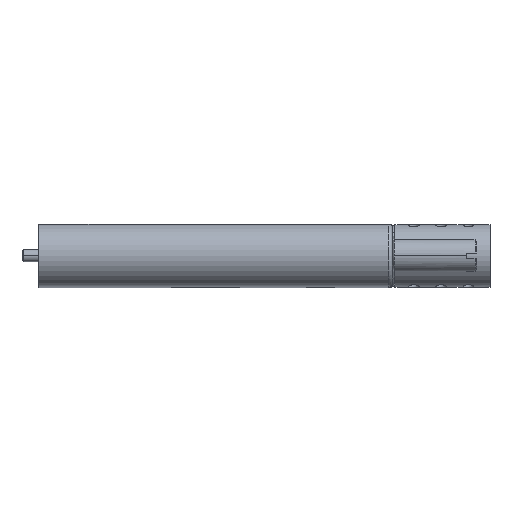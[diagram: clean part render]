
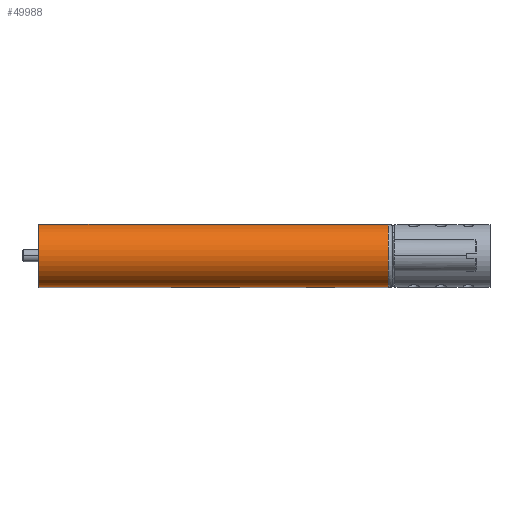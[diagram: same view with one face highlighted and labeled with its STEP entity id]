
A CAD part, top view. The second image highlights one B-rep face of the part: STEP entity #49988.
In plain terms, the highlighted cylindrical face has radius 6.096 mm (diameter 12.192 mm), a partial arc.
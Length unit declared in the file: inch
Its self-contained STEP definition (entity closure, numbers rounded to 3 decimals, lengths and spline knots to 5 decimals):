
#1848=DIRECTION('',(-1.,0.,0.));
#1849=VECTOR('',#1848,2.683);
#1850=CARTESIAN_POINT('',(-0.25,-0.24,1.57));
#1851=LINE('',#1850,#1849);
#1852=DIRECTION('',(1.,0.,0.));
#1853=VECTOR('',#1852,2.683);
#1854=CARTESIAN_POINT('',(-2.933,0.24,1.57));
#1855=LINE('',#1854,#1853);
#1856=CARTESIAN_POINT('',(-0.25,0.,1.57));
#1857=DIRECTION('',(-1.,0.,0.));
#1858=DIRECTION('',(0.,-1.,0.));
#1859=AXIS2_PLACEMENT_3D('',#1856,#1857,#1858);
#1865=CARTESIAN_POINT('',(-2.933,0.,1.57));
#1866=DIRECTION('',(-1.,0.,0.));
#1867=DIRECTION('',(0.,-1.,0.));
#1868=AXIS2_PLACEMENT_3D('',#1865,#1866,#1867);
#38876=CARTESIAN_POINT('',(-0.25,-0.24,1.57));
#38877=VERTEX_POINT('',#38876);
#38880=CARTESIAN_POINT('',(-0.25,0.24,1.57));
#38881=VERTEX_POINT('',#38880);
#39623=CARTESIAN_POINT('',(-2.933,0.24,1.57));
#39625=VERTEX_POINT('',#39623);
#39629=CARTESIAN_POINT('',(-2.933,-0.24,1.57));
#39630=VERTEX_POINT('',#39629);
#49975=CARTESIAN_POINT('',(-2.71,0.,1.57));
#49976=DIRECTION('',(-1.,0.,0.));
#49977=DIRECTION('',(0.,-1.,0.));
#49978=AXIS2_PLACEMENT_3D('',#49975,#49976,#49977);
#49979=CYLINDRICAL_SURFACE('',#49978,0.24);
#49980=ORIENTED_EDGE('',*,*,#49245,.T.);
#49982=ORIENTED_EDGE('',*,*,#49981,.T.);
#49983=ORIENTED_EDGE('',*,*,#49957,.T.);
#49985=ORIENTED_EDGE('',*,*,#49984,.F.);
#49986=EDGE_LOOP('',(#49980,#49982,#49983,#49985));
#49987=FACE_OUTER_BOUND('',#49986,.F.);
#49988=ADVANCED_FACE('',(#49987),#49979,.T.);
#1860=CIRCLE('',#1859,0.24);
#1869=CIRCLE('',#1868,0.24);
#49245=EDGE_CURVE('',#38877,#39630,#1851,.T.);
#49957=EDGE_CURVE('',#39625,#38881,#1855,.T.);
#49981=EDGE_CURVE('',#39630,#39625,#1869,.T.);
#49984=EDGE_CURVE('',#38877,#38881,#1860,.T.);
